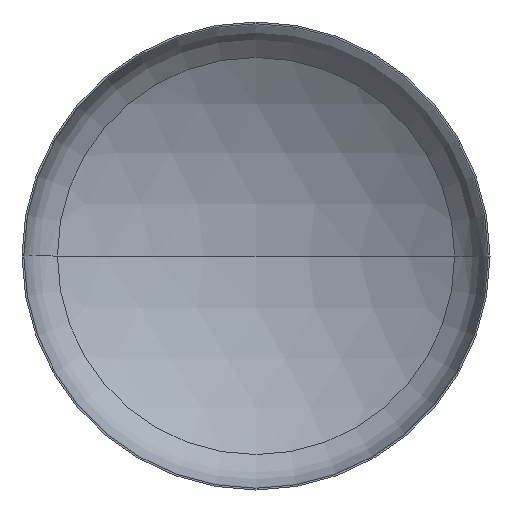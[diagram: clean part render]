
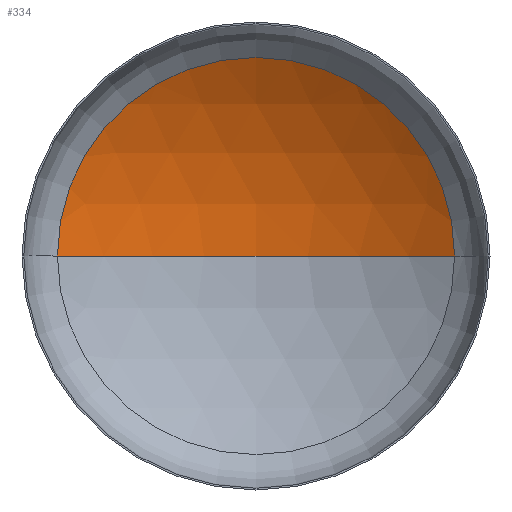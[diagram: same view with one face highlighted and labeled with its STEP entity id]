
A CAD part, front view. The second image highlights one B-rep face of the part: STEP entity #334.
In plain terms, the highlighted spherical face has radius 1280 mm.
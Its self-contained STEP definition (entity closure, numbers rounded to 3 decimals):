
#3 = DIRECTION ( 'NONE',  ( 1., 0., 0. ) ) ;
#12 = EDGE_LOOP ( 'NONE', ( #178, #36, #88 ) ) ;
#36 = ORIENTED_EDGE ( 'NONE', *, *, #188, .T. ) ;
#37 = VERTEX_POINT ( 'NONE', #256 ) ;
#40 = DIRECTION ( 'NONE',  ( 0., -1., 0. ) ) ;
#43 = CARTESIAN_POINT ( 'NONE',  ( 0., 227.693, 0. ) ) ;
#60 = AXIS2_PLACEMENT_3D ( 'NONE', #168, #132, #172 ) ;
#70 = VERTEX_POINT ( 'NONE', #252 ) ;
#88 = ORIENTED_EDGE ( 'NONE', *, *, #183, .T. ) ;
#93 = AXIS2_PLACEMENT_3D ( 'NONE', #273, #270, #261 ) ;
#100 = SPHERICAL_SURFACE ( 'NONE', #60, 1280. ) ;
#113 = AXIS2_PLACEMENT_3D ( 'NONE', #215, #216, #228 ) ;
#116 = AXIS2_PLACEMENT_3D ( 'NONE', #43, #40, #3 ) ;
#120 = VERTEX_POINT ( 'NONE', #342 ) ;
#132 = DIRECTION ( 'NONE',  ( 0., 0., -1. ) ) ;
#135 = CIRCLE ( 'NONE', #93, 1280. ) ;
#168 = CARTESIAN_POINT ( 'NONE',  ( 0., -857.396, 0. ) ) ;
#172 = DIRECTION ( 'NONE',  ( -1., 0., 0. ) ) ;
#178 = ORIENTED_EDGE ( 'NONE', *, *, #191, .F. ) ;
#183 = EDGE_CURVE ( 'NONE', #120, #37, #401, .T. ) ;
#188 = EDGE_CURVE ( 'NONE', #70, #120, #218, .T. ) ;
#191 = EDGE_CURVE ( 'NONE', #70, #37, #135, .T. ) ;
#215 = CARTESIAN_POINT ( 'NONE',  ( 0., -857.396, 0. ) ) ;
#216 = DIRECTION ( 'NONE',  ( 0., 0., -1. ) ) ;
#218 = CIRCLE ( 'NONE', #113, 1280. ) ;
#228 = DIRECTION ( 'NONE',  ( -1., 0., 0. ) ) ;
#252 = CARTESIAN_POINT ( 'NONE',  ( 0., 422.604, 0. ) ) ;
#256 = CARTESIAN_POINT ( 'NONE',  ( -678.957, 227.693, 0. ) ) ;
#261 = DIRECTION ( 'NONE',  ( 1., 0., 0. ) ) ;
#270 = DIRECTION ( 'NONE',  ( 0., 0., 1. ) ) ;
#273 = CARTESIAN_POINT ( 'NONE',  ( 0., -857.396, 0. ) ) ;
#327 = FACE_OUTER_BOUND ( 'NONE', #12, .T. ) ;
#334 = ADVANCED_FACE ( 'NONE', ( #327 ), #100, .F. ) ;
#342 = CARTESIAN_POINT ( 'NONE',  ( 678.957, 227.693, 0. ) ) ;
#401 = CIRCLE ( 'NONE', #116, 678.957 ) ;
